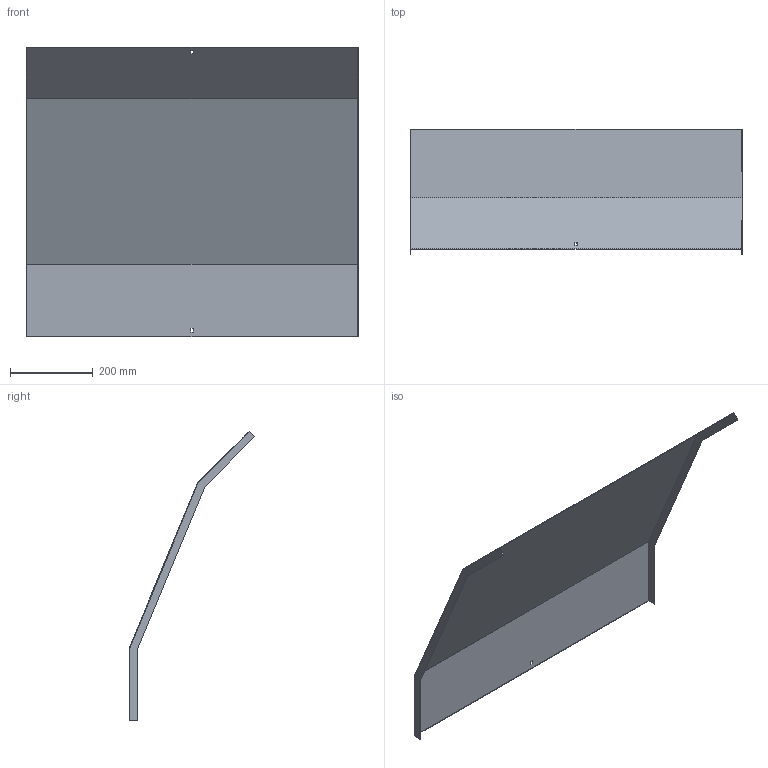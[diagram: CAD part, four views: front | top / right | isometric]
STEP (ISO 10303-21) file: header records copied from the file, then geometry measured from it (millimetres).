
FILE_DESCRIPTION (( 'STEP AP214' ), '1' );
FILE_NAME ('34N5J800.step', '2025-02-21T10:34:00', ( '' ), ( '' ), 'SwSTEP 2.0', 'SolidWorks 2023', '' );
FILE_SCHEMA (( 'AUTOMOTIVE_DESIGN' ));
Length unit declared in the file: millimetre
Products named in the file (1): 34N5J800
Bounding box: 803 x 304.65 x 701.34 mm (x, y, z)
Volume: 988881.4 mm3; surface area: 1323433.3 mm2
Topology: 1 solids, 1 shells, 26 faces, 72 edges, 48 vertices
Faces by surface type: plane 26
Entity records: 847 total; most frequent: CARTESIAN_POINT 147, ORIENTED_EDGE 144, DIRECTION 126, VECTOR 72, LINE 72, EDGE_CURVE 72, VERTEX_POINT 48, EDGE_LOOP 30
